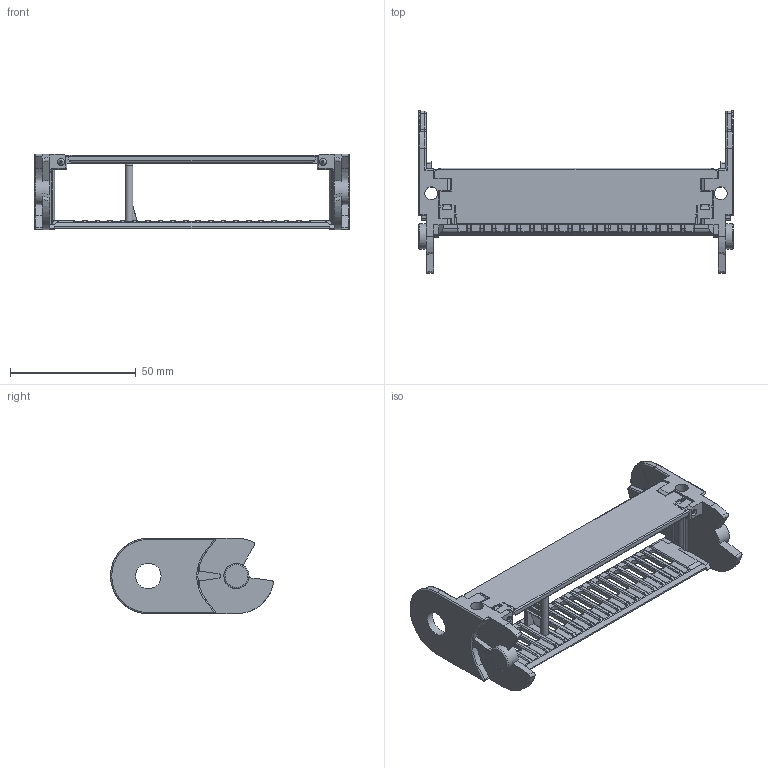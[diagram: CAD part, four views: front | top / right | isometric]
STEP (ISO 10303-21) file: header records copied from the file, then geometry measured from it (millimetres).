
FILE_DESCRIPTION((''),'2;1');
FILE_NAME('C:\Uebbing\PARAMETERKETTEN\KOLIBRI\Kol_30_125_0\Kol_30_125_0.stp','2011-11-02T12:37:09',('Uebbing'),(''),'Autodesk Inventor 10','Autodesk Inventor 10','');
FILE_SCHEMA(('AUTOMOTIVE_DESIGN { 1 0 10303 214 1 1 1 1 }'));
Length unit declared in the file: millimetre
Products named in the file (4): Kol_30_125_0; PZ 30 Stecksteg; Kol_30_125_0_Klappsteg; Kol 30_125_0 Lasche
Assembly tree (3 placements, depth 2):
  Kol_30_125_0
    PZ 30 Stecksteg
    Kol_30_125_0_Klappsteg
    Kol 30_125_0 Lasche
Bounding box: 125 x 64.71 x 30 mm (x, y, z)
Volume: 23589.6 mm3; surface area: 22747.2 mm2
Topology: 3 solids, 3 shells, 1235 faces, 3358 edges, 2152 vertices
Faces by surface type: plane 614, cylinder 307, bspline 141, torus 131, cone 36, sphere 6
Full cylindrical faces by diameter (mm): 1.166 x1, 2.048 x1, 2.8 x8, 5.1 x2, 10 x2, 10.1 x2
Entity records: 42870 total; most frequent: CARTESIAN_POINT 12046, ORIENTED_EDGE 6632, DIRECTION 6156, EDGE_CURVE 3316, VERTEX_POINT 2138, AXIS2_PLACEMENT_3D 2089, VECTOR 1978, LINE 1978
